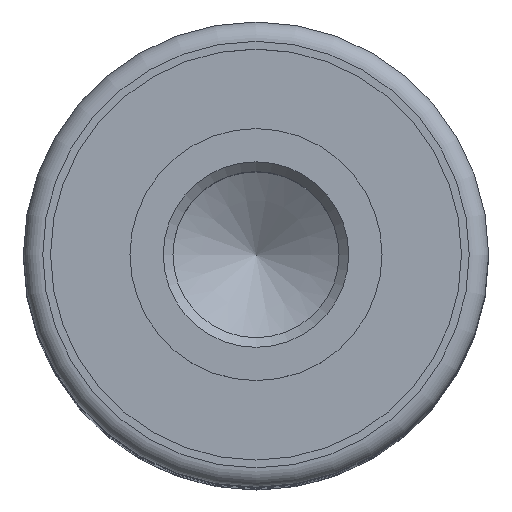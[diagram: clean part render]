
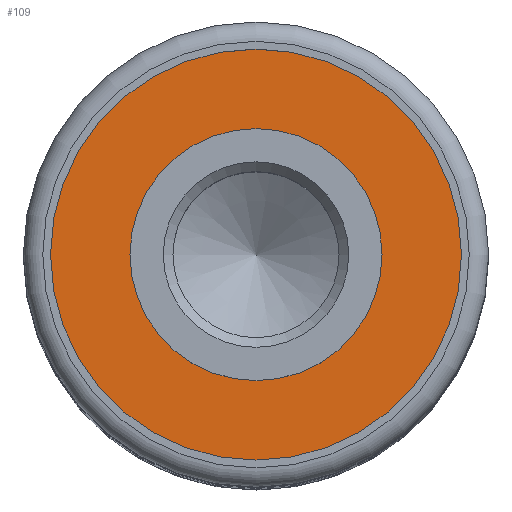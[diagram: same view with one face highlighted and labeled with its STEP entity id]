
A CAD part, top view. The second image highlights one B-rep face of the part: STEP entity #109.
In plain terms, the highlighted planar face has unit normal (0, 0, 1).
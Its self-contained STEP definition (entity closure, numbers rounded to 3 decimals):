
#109=ADVANCED_FACE('',(#192,#193),#194,.T.);
#192=FACE_BOUND('',#301,.T.);
#193=FACE_OUTER_BOUND('',#302,.T.);
#194=PLANE('',#303);
#301=EDGE_LOOP('',(#408));
#302=EDGE_LOOP('',(#409));
#303=AXIS2_PLACEMENT_3D('',#410,#411,#412);
#408=ORIENTED_EDGE('',*,*,#553,.F.);
#409=ORIENTED_EDGE('',*,*,#554,.T.);
#410=CARTESIAN_POINT('',(0.0,0.0,40.7));
#411=DIRECTION('',(0.0,0.0,1.0));
#412=DIRECTION('',(1.0,0.0,0.0));
#553=EDGE_CURVE('',#606,#606,#607,.T.);
#554=EDGE_CURVE('',#608,#608,#609,.T.);
#606=VERTEX_POINT('',#682);
#607=CIRCLE('',#683,6.5);
#608=VERTEX_POINT('',#684);
#609=CIRCLE('',#685,10.6);
#682=CARTESIAN_POINT('',(6.5,0.0,40.7));
#683=AXIS2_PLACEMENT_3D('',#959,#960,#961);
#684=CARTESIAN_POINT('',(10.6,0.0,40.7));
#685=AXIS2_PLACEMENT_3D('',#962,#963,#964);
#959=CARTESIAN_POINT('',(0.0,0.0,40.7));
#960=DIRECTION('',(0.0,0.0,1.0));
#961=DIRECTION('',(1.0,0.0,0.0));
#962=CARTESIAN_POINT('',(0.0,0.0,40.7));
#963=DIRECTION('',(0.0,0.0,1.0));
#964=DIRECTION('',(1.0,0.0,0.0));
